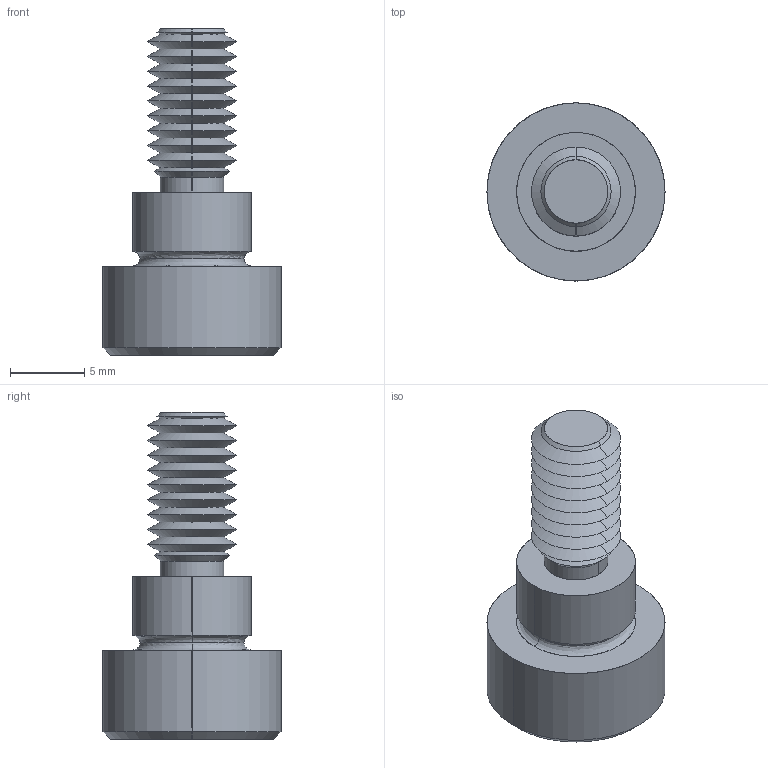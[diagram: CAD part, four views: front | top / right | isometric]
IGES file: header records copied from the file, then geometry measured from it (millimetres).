
Start section: SolidWorks IGES file using analytic representation for surfaces
Global section: file name: C:\Users\IanO\Documents\Temp Folder\GENERAL\SCREW REVISION\P0130_v2\P0130.T5_v2_20220106_IGES\P0130.080-005-T5.igs; native system: SolidWorks 2019; preprocessor: SolidWorks 2019; author: IanO; date: 220106.223024; units: millimetre
Bounding box: 12 x 12 x 22 mm (x, y, z)
Surface area: 961.9 mm2 (no closed solid volume)
Topology: 0 solids, 0 shells, 80 faces, 580 edges, 578 vertices
Faces by surface type: revolution 60, bspline 20
